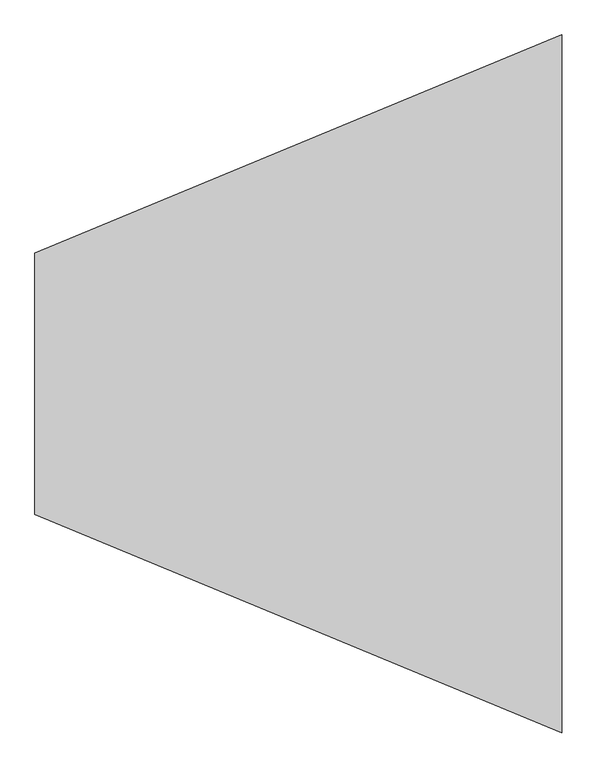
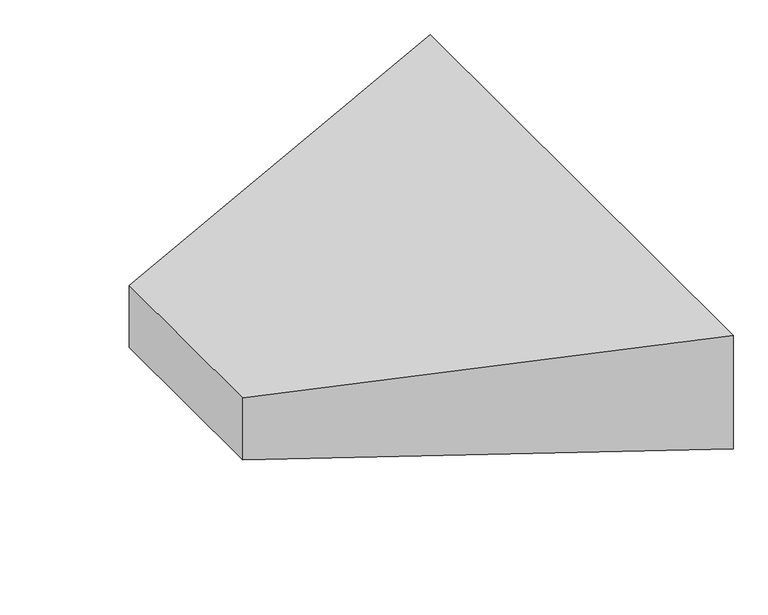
"""IFC4 building model written with IfcOpenShell, lengths in millimetres: duct fitting geometry, M_Transición rectangular - Ángulo : EXT_45 graus."""

from ifc_helpers import new_model, si_unit, origin, place, context, project, spatial, faceted_brep, source, transform, mapped, element, save


def duct_fitting_90af8464(model_context):
    return source(origin(), model_context, "Body", "Brep", [
        faceted_brep([(905.3300856, -599.9831305, 137.5), (905.3300856, -599.9831305, -137.5), (905.3300856, 600.0168695, -137.5), (905.3300856, 600.0168695, 137.5), (0.0, -225.0, 75.0), (0.0, 225.0, 75.0), (0.0, 225.0, -75.0), (0.0, -225.0, -75.0)], [[[0, 1, 2, 3]], [[4, 5, 6, 7]], [[4, 7, 1, 0]], [[7, 6, 2, 1]], [[6, 5, 3, 2]], [[5, 4, 0, 3]]]),
    ])


if __name__ == "__main__":
    model = new_model("IFC4")
    model_context = context("Model", 3, world=origin())
    ifc_project = project(units=[si_unit("LENGTHUNIT", "METRE", prefix="MILLI")], contexts=[model_context])
    site = spatial("IfcSite", under=ifc_project)
    building = spatial("IfcBuilding", under=site)
    placement = place(None, origin())
    duct_fitting_shape = duct_fitting_90af8464(model_context)
    element("IfcDuctFitting", 1, ObjectType="M_Transición rectangular - Ángulo : EXT_45 graus", at=placement, inside=building, context=model_context, shape_type="MappedRepresentation", body=[
        mapped(duct_fitting_shape, transform((0.0, 0.0, 0.0), x_axis=(1.0, 0.0, 0.0), y_axis=(0.0, 1.0, 0.0), z_axis=(0.0, 0.0, 1.0))),
    ])
    save(model, "model.ifc")
